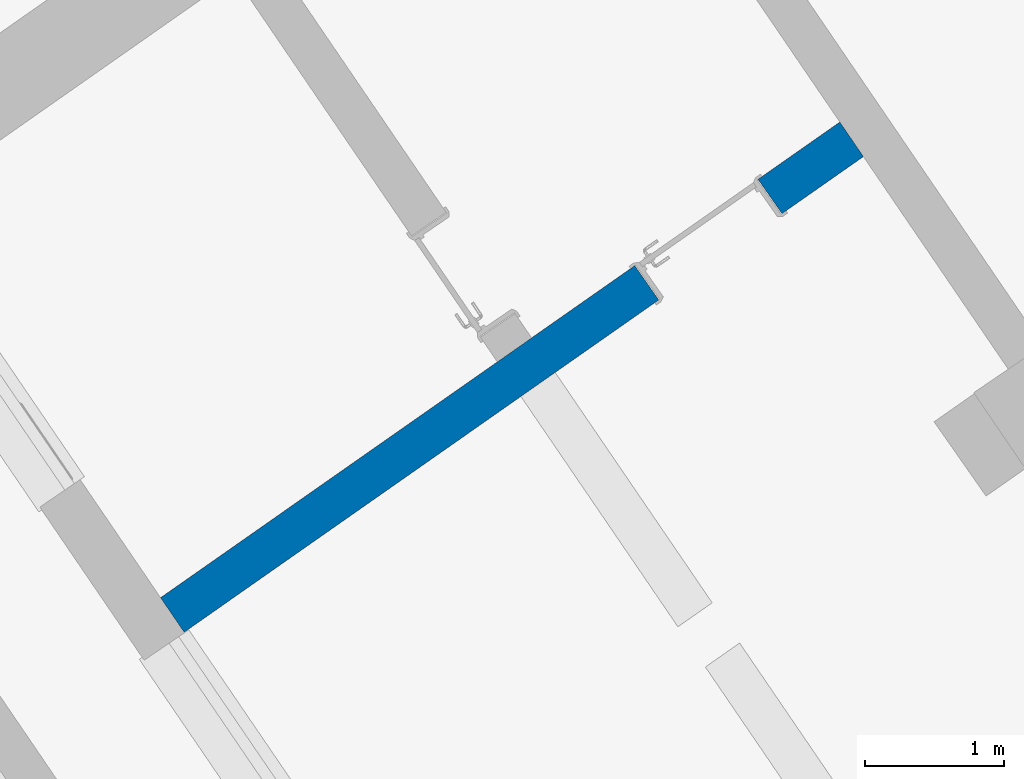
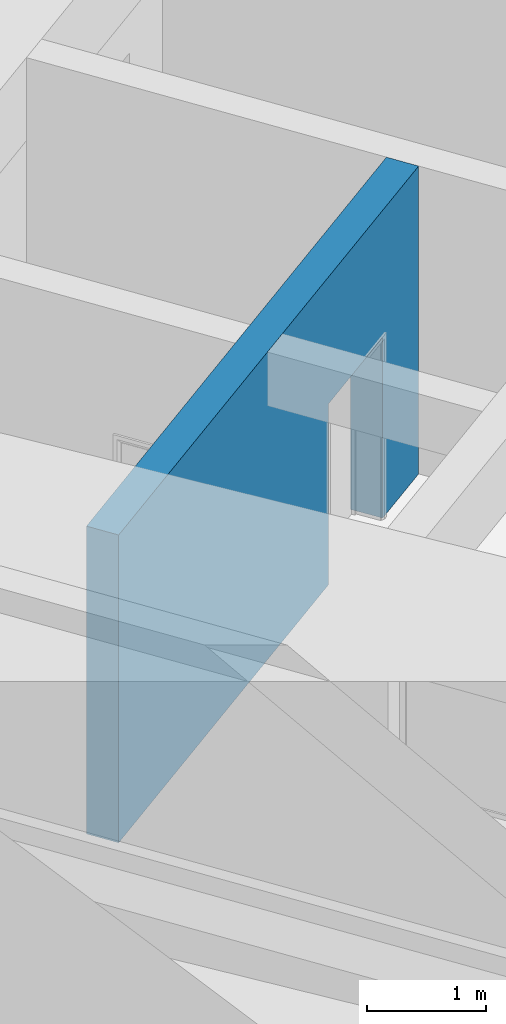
# One storey, part 17 of 112: 1 wall, 1 opening.
"""IFC2X3 building model written with IfcOpenShell, lengths in millimetres."""

from ifc_helpers import new_model, entity, si_unit, converted_unit, derived_unit, direction, frame, frame_2d, origin, place, context, subcontext, project, spatial, polyline, rectangle, outline, extrude, material, layer, layer_set, layer_usage, type_object, element, save


model = new_model("IFC2X3")

# Units and contexts
model_context = context("Model", 3, precision=0.01, world=origin(), true_north=direction((6.123031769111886e-17, 1.0)))
body_context = subcontext(model_context, "Body", "Model", "MODEL_VIEW")
ifc_project = project(units=[si_unit("LENGTHUNIT", "METRE", prefix="MILLI"), si_unit("AREAUNIT", "SQUARE_METRE"), si_unit("VOLUMEUNIT", "CUBIC_METRE"), converted_unit("PLANEANGLEUNIT", "DEGREE", entity("IfcRatioMeasure", 0.017453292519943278), si_unit("PLANEANGLEUNIT", "RADIAN"), dimensions=[0, 0, 0, 0, 0, 0, 0]), si_unit("MASSUNIT", "GRAM", prefix="KILO"), derived_unit("MASSDENSITYUNIT", [(si_unit("MASSUNIT", "GRAM", prefix="KILO"), 1), (si_unit("LENGTHUNIT", "METRE"), -3)]), derived_unit("MOMENTOFINERTIAUNIT", [(si_unit("LENGTHUNIT", "METRE"), 4)]), si_unit("TIMEUNIT", "SECOND"), si_unit("FREQUENCYUNIT", "HERTZ"), si_unit("THERMODYNAMICTEMPERATUREUNIT", "DEGREE_CELSIUS"), derived_unit("THERMALTRANSMITTANCEUNIT", [(si_unit("MASSUNIT", "GRAM", prefix="KILO"), 1), (si_unit("THERMODYNAMICTEMPERATUREUNIT", "KELVIN"), -1), (si_unit("TIMEUNIT", "SECOND"), -3)]), derived_unit("THERMALCONDUCTANCEUNIT", [(si_unit("MASSUNIT", "GRAM", prefix="KILO"), 1), (si_unit("LENGTHUNIT", "METRE"), 1), (si_unit("THERMODYNAMICTEMPERATUREUNIT", "KELVIN"), -1), (si_unit("TIMEUNIT", "SECOND"), -3)]), derived_unit("VOLUMETRICFLOWRATEUNIT", [(si_unit("LENGTHUNIT", "METRE"), 3), (si_unit("TIMEUNIT", "SECOND"), -1)]), derived_unit("MASSFLOWRATEUNIT", [(si_unit("MASSUNIT", "GRAM", prefix="KILO"), 1), (si_unit("TIMEUNIT", "SECOND"), -1)]), derived_unit("ROTATIONALFREQUENCYUNIT", [(si_unit("TIMEUNIT", "SECOND"), -1)]), si_unit("ELECTRICCURRENTUNIT", "AMPERE"), si_unit("ELECTRICVOLTAGEUNIT", "VOLT"), si_unit("POWERUNIT", "WATT"), converted_unit("FORCEUNIT", "KIP", entity("IfcRatioMeasure", 2.088543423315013e-05), si_unit("FORCEUNIT", "NEWTON"), dimensions=[1, 1, -2, 0, 0, 0, 0]), si_unit("ILLUMINANCEUNIT", "LUX"), si_unit("LUMINOUSFLUXUNIT", "LUMEN"), si_unit("LUMINOUSINTENSITYUNIT", "CANDELA"), derived_unit("USERDEFINED", [(si_unit("MASSUNIT", "GRAM", prefix="KILO"), -1), (si_unit("LENGTHUNIT", "METRE"), -2), (si_unit("TIMEUNIT", "SECOND"), 3), (si_unit("LUMINOUSFLUXUNIT", "LUMEN"), 1)]), derived_unit("USERDEFINED", [(si_unit("MASSUNIT", "GRAM", prefix="KILO"), 1), (si_unit("LENGTHUNIT", "METRE"), 3), (si_unit("TIMEUNIT", "SECOND"), -3), (si_unit("ELECTRICCURRENTUNIT", "AMPERE"), -2)]), derived_unit("USERDEFINED", [(si_unit("LENGTHUNIT", "METRE"), 2), (si_unit("TIMEUNIT", "SECOND"), -2)]), derived_unit("SOUNDPOWERUNIT", [(si_unit("MASSUNIT", "GRAM", prefix="KILO"), 1), (si_unit("LENGTHUNIT", "METRE"), 2), (si_unit("TIMEUNIT", "SECOND"), -3)]), derived_unit("SOUNDPRESSUREUNIT", [(si_unit("MASSUNIT", "GRAM", prefix="KILO"), 1), (si_unit("LENGTHUNIT", "METRE"), -1), (si_unit("TIMEUNIT", "SECOND"), -2)]), derived_unit("LINEARVELOCITYUNIT", [(si_unit("LENGTHUNIT", "METRE"), 1), (si_unit("TIMEUNIT", "SECOND"), -1)]), si_unit("PRESSUREUNIT", "PASCAL"), derived_unit("USERDEFINED", [(si_unit("LENGTHUNIT", "METRE"), -2), (si_unit("MASSUNIT", "GRAM", prefix="KILO"), 1), (si_unit("TIMEUNIT", "SECOND"), -2)]), derived_unit("LINEARFORCEUNIT", [(si_unit("MASSUNIT", "GRAM", prefix="KILO"), 1), (si_unit("LENGTHUNIT", "METRE"), 1), (si_unit("TIMEUNIT", "SECOND"), -2), (si_unit("LENGTHUNIT", "METRE"), -1)]), derived_unit("PLANARFORCEUNIT", [(si_unit("MASSUNIT", "GRAM", prefix="KILO"), 1), (si_unit("LENGTHUNIT", "METRE"), 1), (si_unit("TIMEUNIT", "SECOND"), -2), (si_unit("LENGTHUNIT", "METRE"), -2)]), derived_unit("SPECIFICHEATCAPACITYUNIT", [(si_unit("LENGTHUNIT", "METRE"), 2), (si_unit("TIMEUNIT", "SECOND"), -2), (si_unit("THERMODYNAMICTEMPERATUREUNIT", "KELVIN"), -1)]), derived_unit("VAPORPERMEABILITYUNIT", [(si_unit("TIMEUNIT", "SECOND"), 1), (si_unit("LENGTHUNIT", "METRE"), -1)]), derived_unit("DYNAMICVISCOSITYUNIT", [(si_unit("MASSUNIT", "GRAM", prefix="KILO"), 1), (si_unit("LENGTHUNIT", "METRE"), -1), (si_unit("TIMEUNIT", "SECOND"), -1)]), derived_unit("THERMALEXPANSIONCOEFFICIENTUNIT", [(si_unit("THERMODYNAMICTEMPERATUREUNIT", "KELVIN"), -1)])], contexts=[model_context])

# Site, building, storey
site_placement = place(None, frame((0.0, 0.0, 0.0), z_axis=(0.0, 0.0, 1.0), x_axis=(0.8191520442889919, 0.5735764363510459, 0.0)))
site = spatial("IfcSite", under=ifc_project, at=site_placement, Name="Default", CompositionType="ELEMENT")
building_placement = place(site_placement, origin())
building = spatial("IfcBuilding", under=site, at=building_placement, CompositionType="ELEMENT")
storey_placement = place(building_placement, frame((0.0, 0.0, -3600.0)))
storey = spatial("IfcBuildingStorey", under=building, at=storey_placement, Name="0.UG -3.60", CompositionType="ELEMENT", Elevation=-3600.0000000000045)

# Wall, opening
ifc_material = material(Name="Analytical Wall Surface_CJC")
ifc_layer = layer(ifc_material, 300.0)
ifc_layer_set = layer_set([ifc_layer], Name="Basic Wall:Wand_Innen_30")
ifc_layer_usage = layer_usage(ifc_layer_set, "AXIS2", "POSITIVE", -150.0)
wall_type = type_object("IfcWallType", Name="Basic Wall:Wand_Innen_30", PredefinedType="STANDARD", material=ifc_layer_set)
wall_placement = place(storey_placement, frame((-222953.4795826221, 99721.35891435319, 300.0)))
wall = element("IfcWallStandardCase", 1, at=wall_placement, inside=storey, type_object=wall_type, material=ifc_layer_usage, Name="Basic Wall:Wand_Innen_30", ObjectType="Basic Wall:Wand_Innen_30", context=body_context, shape_type="SweptSolid", body=[
    extrude(outline(polyline([(0.0, -150.0), (2950.1680530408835, -150.0), (3250.1914289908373, -150.0), (5950.667589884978, -150.0), (5954.467500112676, 150.0), (3254.033228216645, 150.0), (2954.00891890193, 150.0), (3.8191857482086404, 150.0), (0.0, -150.0)])), origin(), (0.0, 0.0, 1.0), 3150.0),
])
opening_placement = place(wall_placement, frame((4157.455940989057, -150.0, -300.0)))
element("IfcOpeningElement", 2, at=opening_placement, cuts=wall, Name="Doors_IntSgl:100x210:1", ObjectType="Opening", context=body_context, shape_type="SweptSolid", body=[
    extrude(rectangle(XDim=2150.000000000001, YDim=1079.9999999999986, at=frame_2d((1075.0000000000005, 539.9999999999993), x_axis=(1.0, 0.0))), frame((0.0, 0.0, 0.0), z_axis=(0.0, 1.0, 0.0), x_axis=(0.0, 0.0, 1.0)), (0.0, 0.0, 1.0), 300.0),
])

save(model, "model.ifc")
